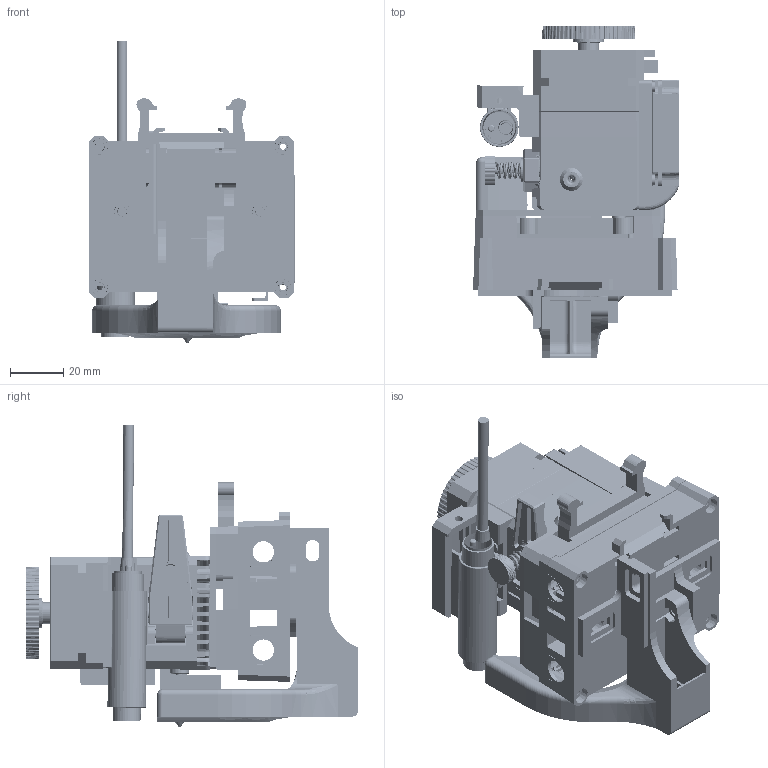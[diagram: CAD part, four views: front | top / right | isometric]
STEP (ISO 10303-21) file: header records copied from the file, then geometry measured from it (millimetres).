
FILE_DESCRIPTION(/* description */ (''),/* implementation_level */ '2;1');
FILE_NAME(/* name */ 'SV06 5015 part cooling fan setup.step',/* time_stamp */ '2023-02-23T10:56:54+10:00',/* author */ (''),/* organization */ (''),/* preprocessor_version */ 'ST-DEVELOPER v19.2',/* originating_system */ 'Autodesk Translation Framework v11.17.0.187',/* authorisation */ '');
FILE_SCHEMA (('AUTOMOTIVE_DESIGN { 1 0 10303 214 3 1 1 }'));
Products named in the file (40): SV06 X&Z Axis Part; JXHSV06-08000 Extruder Component; JXHSV06-08001-c Extruder mount; JXHSV06-08002-d Extruder Handle£¨2£©; JXHSV06-08003-d gear seat; JXHSV06-08004-c Planet carrier; JXHSV06-08007-d Cylindrical gear 27¡Á0.5; JXHSV06-08009-d auto-leveling slide; JXHSV06-08011-d Spacer; JXHSV06-08013-d sliding seat cover; JXHSV06-08016-a gear shaft; JXHSV06-08017-a Hinge; JXHSV06-08019-a Large gear 25 teeth; JXHSV06-08012-d Hotend sliding seat; JXHSV06-08020-d leveling mounting plate; JXHSV06-08021-d fan mounting plate; JXHSV06-08022-b Adapter plate cover; JXHSV06-08023-a Copper sets; JXHSV06-08025-f 42-23 stepper motor (with gear); JXHSV06-08026-f Proximity switch LJ12A3-4-Z-AX (5VNPN normally closed
); JXHSV06-08029-f Hotend high temperature heating tube SUS304-24V-50W; JXHSV06-08030-f Hotend thermistor; JXHSV06-08038-a Copper Titanium Metal heat break; JXHSV06-08033-a heating block; JXHSV06-08028-f Nozzle blower fan 24V4010 blower; JXHSV06-08036-d motor knob; brass nozzle 0.4mm_M6x0.4; JXHSV06-08040-a brass nozzle 0.4mm ; Heating block silicone cover-23¡Á23¡Á
17.5¡ÁT1.5; SV06ZJB-V1.4  Extruder PCB Adapter Board; 304 stainless steel spring; GB835-M3X18 Flat head knurled thumb screws nickel-plated; A-level large flat washer GB-T96.1-2022-3 flat washer; MF148ZZ bearing; MR128ZZ; MR84ZZ; MR85ZZ; LM8UU Linear Bearing; GB-T-70.3-2000-M3x8 Hexagon socket head screw; GB-T93-3 Spring Spacer
Assembly tree (51 placements, depth 3):
  SV06 X&Z Axis Part
    JXHSV06-08000 Extruder Component
      JXHSV06-08001-c Extruder mount
      JXHSV06-08002-d Extruder Handle£¨2£©
      JXHSV06-08003-d gear seat
      JXHSV06-08004-c Planet carrier
      JXHSV06-08007-d Cylindrical gear 27¡Á0.5  x3
      JXHSV06-08009-d auto-leveling slide
      JXHSV06-08011-d Spacer
      JXHSV06-08013-d sliding seat cover
      JXHSV06-08016-a gear shaft
      JXHSV06-08017-a Hinge
      JXHSV06-08019-a Large gear 25 teeth  x2
      JXHSV06-08012-d Hotend sliding seat
      JXHSV06-08020-d leveling mounting plate
      JXHSV06-08021-d fan mounting plate
      JXHSV06-08022-b Adapter plate cover
      JXHSV06-08023-a Copper sets
      JXHSV06-08025-f 42-23 stepper motor (with gear)
      JXHSV06-08026-f Proximity switch LJ12A3-4-Z-AX (5VNPN normally closed
)
      JXHSV06-08029-f Hotend high temperature heating tube SUS304-24V-50W
      JXHSV06-08030-f Hotend thermistor
      JXHSV06-08038-a Copper Titanium Metal heat break
      JXHSV06-08033-a heating block
      JXHSV06-08028-f Nozzle blower fan 24V4010 blower
      JXHSV06-08036-d motor knob
      brass nozzle 0.4mm_M6x0.4
      JXHSV06-08040-a brass nozzle 0.4mm 
      Heating block silicone cover-23¡Á23¡Á
17.5¡ÁT1.5
      SV06ZJB-V1.4  Extruder PCB Adapter Board
      304 stainless steel spring
      GB835-M3X18 Flat head knurled thumb screws nickel-plated
      A-level large flat washer GB-T96.1-2022-3 flat washer
      MF148ZZ bearing
      MR128ZZ
      MR84ZZ  x2
      MR85ZZ  x3
      LM8UU Linear Bearing  x3
      GB-T-70.3-2000-M3x8 Hexagon socket head screw  x2
      GB-T93-3 Spring Spacer  x4
Bounding box: 77.53 x 124.93 x 113.53 mm (x, y, z)
Volume: 208369.1 mm3; surface area: 195293.1 mm2
Topology: 102 solids, 102 shells, 8007 faces, 21479 edges, 13870 vertices
Faces by surface type: plane 3474, cylinder 1476, cone 1449, bspline 1160, torus 425, sphere 23
Full cylindrical faces by diameter (mm): 0.1 x2, 0.4 x2, 1.493 x3, 1.5 x4, 1.6 x4, 2 x4, 2.05 x3, 2.2 x6, 2.3 x10, 2.5 x20, 2.7 x2, 3 x38, 3.03 x1, 3.1 x5, 3.2 x7, 3.38 x1, 3.4 x6, 3.5 x2, 3.6 x2, 4 x9, 4.03 x2, 4.2 x4, 4.98 x1, 5 x18, 5.1 x3, 5.3 x6, 5.54 x2, 5.9 x1, 5.95 x1, 6 x25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
Entity records: 278721 total; most frequent: CARTESIAN_POINT 121702, ORIENTED_EDGE 33858, DIRECTION 31006, EDGE_CURVE 16929, AXIS2_PLACEMENT_3D 11179, VERTEX_POINT 11003, LINE 8648, VECTOR 8648
